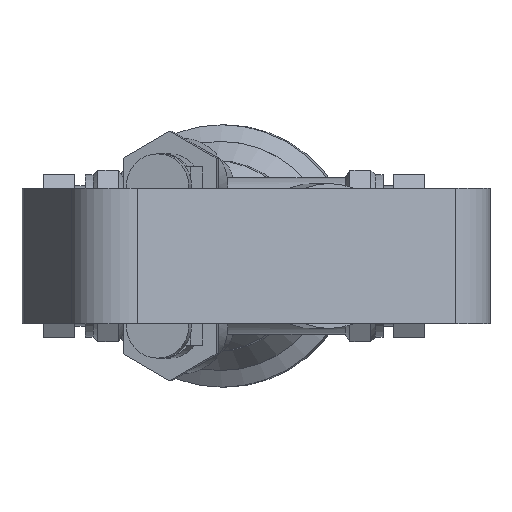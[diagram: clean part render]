
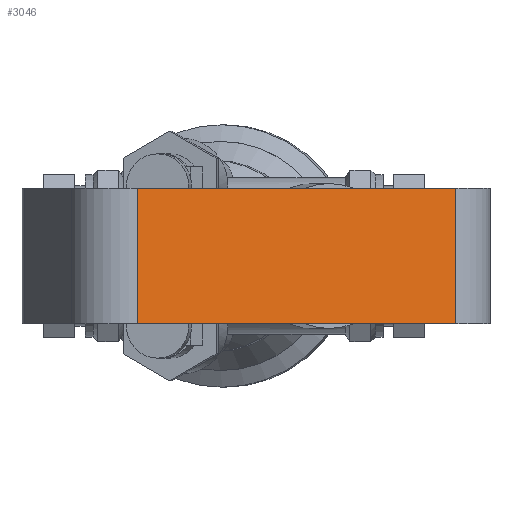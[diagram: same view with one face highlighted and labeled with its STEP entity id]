
A CAD part, front view. The second image highlights one B-rep face of the part: STEP entity #3046.
In plain terms, the highlighted planar face has unit normal (0.342, -0.94, 0).
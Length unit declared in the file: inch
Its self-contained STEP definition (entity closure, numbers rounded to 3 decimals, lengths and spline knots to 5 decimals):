
#106=PLANE('',#3371);
#243=FACE_OUTER_BOUND('',#422,.T.);
#422=EDGE_LOOP('',(#2139,#2140,#2141,#2142));
#610=LINE('',#4988,#852);
#617=LINE('',#5023,#859);
#618=LINE('',#5026,#860);
#619=LINE('',#5027,#861);
#852=VECTOR('',#3821,0.3937);
#859=VECTOR('',#3860,0.3937);
#860=VECTOR('',#3863,0.3937);
#861=VECTOR('',#3864,0.3937);
#1303=VERTEX_POINT('',#4985);
#1304=VERTEX_POINT('',#4987);
#1316=VERTEX_POINT('',#5021);
#1317=VERTEX_POINT('',#5025);
#1616=EDGE_CURVE('',#1303,#1304,#610,.T.);
#1633=EDGE_CURVE('',#1316,#1303,#617,.T.);
#1634=EDGE_CURVE('',#1317,#1316,#618,.T.);
#1635=EDGE_CURVE('',#1317,#1304,#619,.T.);
#2139=ORIENTED_EDGE('',*,*,#1633,.F.);
#2140=ORIENTED_EDGE('',*,*,#1634,.F.);
#2141=ORIENTED_EDGE('',*,*,#1635,.T.);
#2142=ORIENTED_EDGE('',*,*,#1616,.F.);
#3046=ADVANCED_FACE('',(#243),#106,.T.);
#3371=AXIS2_PLACEMENT_3D('',#5024,#3861,#3862);
#3821=DIRECTION('',(-0.94,-0.342,0.));
#3860=DIRECTION('',(0.,0.,-1.));
#3861=DIRECTION('center_axis',(0.342,-0.94,0.));
#3862=DIRECTION('ref_axis',(0.94,0.342,0.));
#3863=DIRECTION('',(0.94,0.342,0.));
#3864=DIRECTION('',(0.,0.,-1.));
#4985=CARTESIAN_POINT('',(2.1275,-3.9776,-0.65));
#4987=CARTESIAN_POINT('',(-0.92836,-5.08985,-0.65));
#4988=CARTESIAN_POINT('',(2.1275,-3.9776,-0.65));
#5021=CARTESIAN_POINT('',(2.1275,-3.9776,0.65));
#5023=CARTESIAN_POINT('',(2.1275,-3.9776,0.));
#5024=CARTESIAN_POINT('Origin',(-0.92836,-5.08985,0.));
#5025=CARTESIAN_POINT('',(-0.92836,-5.08985,0.65));
#5026=CARTESIAN_POINT('',(2.1275,-3.9776,0.65));
#5027=CARTESIAN_POINT('',(-0.92836,-5.08985,0.));
